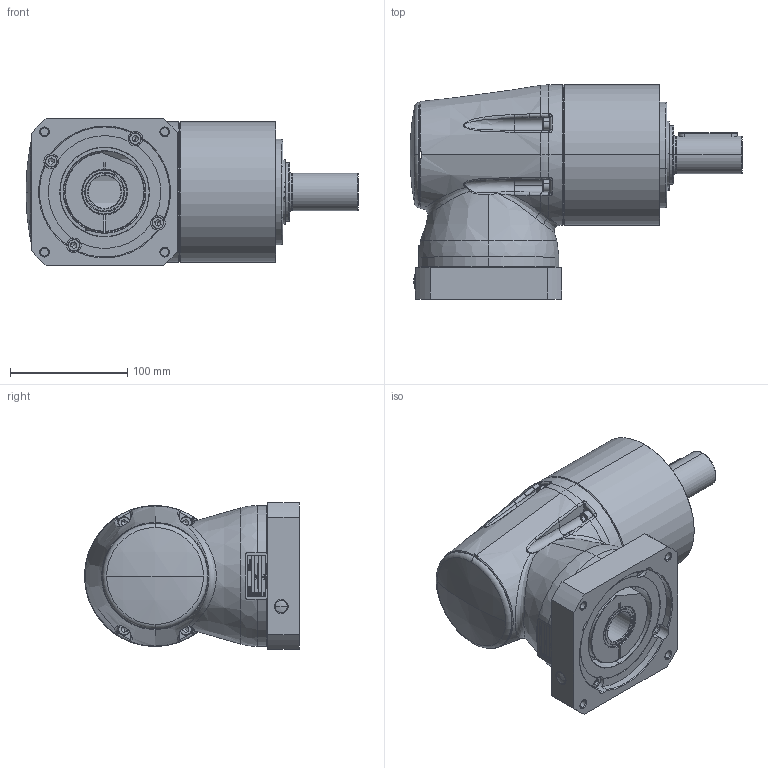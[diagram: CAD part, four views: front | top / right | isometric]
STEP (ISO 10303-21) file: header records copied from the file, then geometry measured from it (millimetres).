
FILE_DESCRIPTION (( 'STEP AP214' ), '1' );
FILE_NAME ('RL-030-0RR-FFF-MMM-S-LL-XXX-AXX-0000.STEP', '2019-10-30T15:06:20', ( '' ), ( '' ), 'SwSTEP 2.0', 'SolidWorks 2019', '' );
FILE_SCHEMA (( 'AUTOMOTIVE_DESIGN' ));
Length unit declared in the file: millimetre
Products named in the file (1): RL-030-0RR-FFF-MMM-S-LL-XXX-AXX-0000
Bounding box: 283 x 183 x 125 mm (x, y, z)
Surface area: 193952.6 mm2 (no closed solid volume)
Topology: 0 solids, 75 shells, 501 faces, 2438 edges, 1977 vertices
Faces by surface type: plane 170, cylinder 128, cone 86, torus 58, bspline 55, sphere 4
Entity records: 39011 total; most frequent: CARTESIAN_POINT 15823, ORIENTED_EDGE 3333, DIRECTION 3112, EDGE_CURVE 2422, VERTEX_POINT 1977, VECTOR 1090, LINE 1090, AXIS2_PLACEMENT_3D 1011
